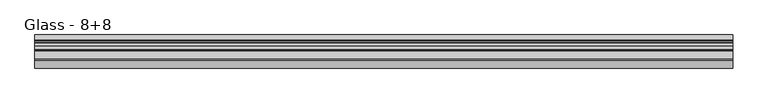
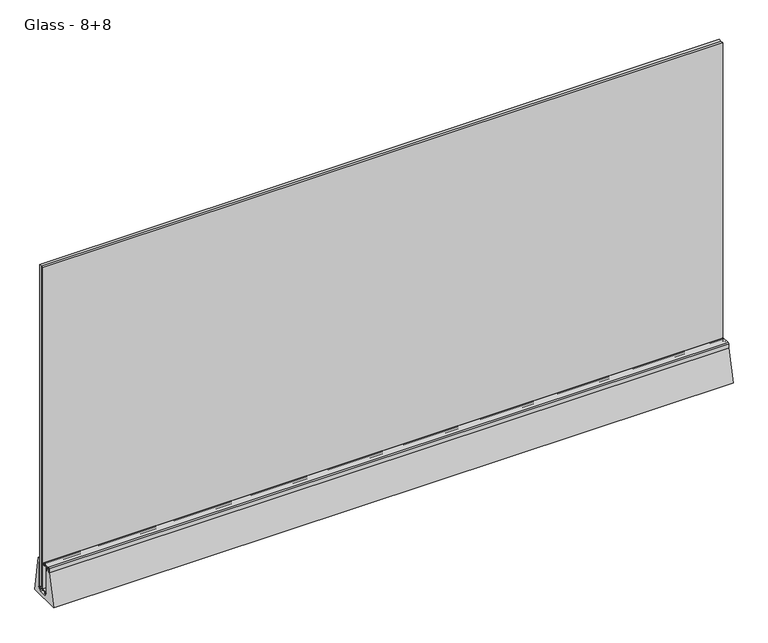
"""IFC4 building model written with IfcOpenShell, lengths in millimetres: proxy geometry, Construction_Slope-Glazing_Faraone_Linea-3-Mini : Glass - 8+8."""

from ifc_helpers import new_model, si_unit, point, frame, frame_2d, origin, place, context, project, spatial, polyline, circle_curve, trimmed, segment, composite_curve, outline, extrude, source, transform, mapped, element, save


def glass_8_8_bdc9742d(model_context):
    return source(origin(), model_context, "Body", "SweptSolid", [
        extrude(outline(polyline([(1000.0, 23.8514845), (1000.0, 15.9014845), (-1000.0, 15.9014845), (-1000.0, 23.8514845), (1000.0, 23.8514845)])), frame((0.0, 0.0, 26.5097848), z_axis=(0.0, 0.0, 1.0), x_axis=(1.0, 0.0, 0.0)), (0.0, 0.0, 1.0), 1000.0),
        extrude(outline(polyline([(1000.0, 14.3014845), (1000.0, 6.3514845), (-1000.0, 6.3514845), (-1000.0, 14.3014845), (1000.0, 14.3014845)])), frame((0.0, 0.0, 26.5097848), z_axis=(0.0, 0.0, 1.0), x_axis=(1.0, 0.0, 0.0)), (0.0, 0.0, 1.0), 1000.0),
        extrude(outline(polyline([(21.0027951, 21.0097848), (22.0027951, 21.0097848), (21.0027951, 17.5097848), (18.5027951, 17.5097848), (18.5027951, 23.5097848), (-3.4544609, 23.5097848), (-3.4544609, 17.5097848), (-5.9544609, 17.5097848), (-6.9542334, 21.0097848), (-5.9544609, 21.0097848), (-5.9544609, 23.5100571), (-8.9999952, 23.5100571), (-8.9999952, 26.5097848), (23.8514845, 26.5097848), (23.8514845, 98.7598945), (26.4955126, 98.7598945), (26.4955126, 23.5097848), (21.0027951, 23.5097848), (21.0027951, 21.0097848)])), frame((-1000.0, 0.0, 0.0), z_axis=(1.0, 0.0, 0.0), x_axis=(0.0, 1.0, 0.0)), (0.0, 0.0, 1.0), 2000.0),
        extrude(outline(composite_curve([segment(trimmed(circle_curve(frame_2d((2.3741707, 109.8933639)), 0.5), [point((2.3741707, 110.3933639))], [point((2.8741707, 109.8933639))], False, "CARTESIAN"), True, "CONTINUOUS"), segment(polyline([(2.8741707, 109.8933639), (2.8741707, 107.7847909), (2.080513, 107.7847909), (2.080513, 109.0323883), (1.1824202, 109.0323883)]), True, "CONTINUOUS"), segment(trimmed(circle_curve(frame_2d((1.1824202, 108.5241255)), 0.5082627), [point((1.1824202, 109.0323883))], [point((0.6741575, 108.5241255))], True, "CARTESIAN"), True, "CONTINUOUS"), segment(polyline([(0.6741575, 108.5241255), (0.6741575, 104.040651)]), True, "CONTINUOUS"), segment(trimmed(circle_curve(frame_2d((1.1824202, 104.040651)), 0.5082627), [point((0.6741575, 104.040651))], [point((1.1824202, 103.5323883))], True, "CARTESIAN"), True, "CONTINUOUS"), segment(polyline([(1.1824202, 103.5323883), (2.080513, 103.5323883), (2.080513, 104.7799856), (2.8741707, 104.7799856), (2.8741707, 102.8323883)]), True, "CONTINUOUS"), segment(trimmed(circle_curve(frame_2d((2.3741707, 102.8323883)), 0.5), [point((2.8741707, 102.8323883))], [point((2.3741707, 102.3323883))], False, "CARTESIAN"), True, "CONTINUOUS"), segment(polyline([(2.3741707, 102.3323883), (-0.0258423, 102.3323883)]), True, "CONTINUOUS"), segment(trimmed(circle_curve(frame_2d((-0.0258423, 102.8323885)), 0.5000003), [point((-0.0258423, 102.3323883))], [point((-0.5258425, 102.8323885))], False, "CARTESIAN"), True, "CONTINUOUS"), segment(polyline([(-0.5258425, 102.8323885), (-0.5258425, 108.3933644)]), True, "CONTINUOUS"), segment(trimmed(circle_curve(frame_2d((-1.0258425, 108.3933644)), 0.5), [point((-0.5258425, 108.3933644))], [point((-1.0258425, 108.8933644))], True, "CARTESIAN"), True, "CONTINUOUS"), segment(polyline([(-1.0258425, 108.8933644), (-11.5017337, 108.8933644), (-11.5017337, 95.1380316), (-13.5888351, 95.1380316), (-13.5888351, 100.1818111), (-12.7017337, 100.1818111), (-12.7017337, 108.0933644)]), True, "CONTINUOUS"), segment(trimmed(circle_curve(frame_2d((-12.7017337, 108.4933644)), 0.4), [point((-12.7017337, 108.0933644))], [point((-12.7017337, 108.8933644))], True, "CARTESIAN"), True, "CONTINUOUS"), segment(polyline([(-12.7017337, 108.8933644), (-22.0267873, 108.8933644)]), True, "CONTINUOUS"), segment(trimmed(circle_curve(frame_2d((-22.0267873, 107.3933642)), 1.5000003), [point((-22.0267873, 108.8933644))], [point((-23.5267875, 107.3933642))], True, "CARTESIAN"), True, "CONTINUOUS"), segment(polyline([(-23.5267875, 107.3933642), (-23.5267875, 100.1818111), (-22.6462885, 100.1818111), (-22.6462885, 95.1374302), (-24.7267875, 95.1382255), (-24.7267875, 107.3933639)]), True, "CONTINUOUS"), segment(trimmed(circle_curve(frame_2d((-21.7267875, 107.3933639)), 3.0), [point((-24.7267875, 107.3933639))], [point((-21.7267875, 110.3933639))], False, "CARTESIAN"), True, "CONTINUOUS"), segment(polyline([(-21.7267875, 110.3933639), (2.3741707, 110.3933639)]), True, "CONTINUOUS")], self_intersect=False)), frame((-1000.0, 0.0, 0.0), z_axis=(1.0, 0.0, 0.0), x_axis=(0.0, 1.0, 0.0)), (0.0, 0.0, 1.0), 2000.0),
        extrude(outline(composite_curve([segment(polyline([(-47.4987038, 0.0), (-24.7300487, 95.1378278), (-22.4744479, 95.1378278), (-22.4744479, 103.0050058), (-13.7606757, 103.0050058), (-13.7606757, 95.1380316), (-11.4999492, 95.1380316), (-11.4999492, 23.5100853), (-6.5000411, 23.5100853), (-6.5000411, 21.5106384), (-11.5002842, 21.5106384), (-6.3392177, 10.5100582), (21.4008273, 10.5098183), (26.8963028, 21.5099451), (21.4999589, 21.5099451), (21.4999589, 23.5097848), (26.4996909, 23.5097848), (26.4947523, 109.9810078), (30.5938434, 109.9810078)]), True, "CONTINUOUS"), segment(trimmed(circle_curve(frame_2d((30.5938434, 109.0417285)), 0.9392792), [point((30.5938434, 109.9810078))], [point((31.5233799, 109.1766636))], False, "CARTESIAN"), True, "CONTINUOUS"), segment(polyline([(31.5233799, 109.1766636), (47.3718822, 0.0), (-47.4987038, 0.0)]), True, "CONTINUOUS")], self_intersect=False)), frame((-1000.0, 0.0, 0.0), z_axis=(1.0, 0.0, 0.0), x_axis=(0.0, 1.0, 0.0)), (0.0, 0.0, 1.0), 2000.0),
    ])


if __name__ == "__main__":
    model = new_model("IFC4")
    model_context = context("Model", 3, world=origin())
    ifc_project = project(units=[si_unit("LENGTHUNIT", "METRE", prefix="MILLI")], contexts=[model_context])
    site = spatial("IfcSite", under=ifc_project)
    building = spatial("IfcBuilding", under=site)
    placement = place(None, origin())
    glass_8_8_shape = glass_8_8_bdc9742d(model_context)
    element("IfcBuildingElementProxy", 1, Name="Construction_Slope-Glazing_Faraone_Linea-3-Mini : Glass - 8+8", ObjectType="Construction_Slope-Glazing_Faraone_Linea-3-Mini : Glass - 8+8", at=placement, inside=building, context=model_context, shape_type="MappedRepresentation", body=[
        mapped(glass_8_8_shape, transform((0.0, 0.0, 0.0), x_axis=(1.0, 0.0, 0.0), y_axis=(0.0, 1.0, 0.0), z_axis=(0.0, 0.0, 1.0))),
    ])
    save(model, "model.ifc")
